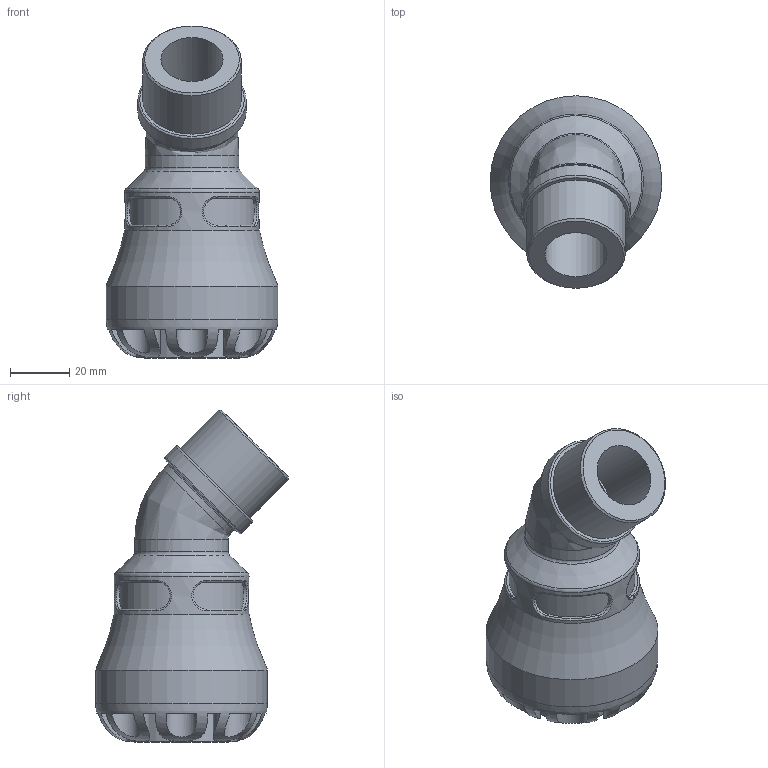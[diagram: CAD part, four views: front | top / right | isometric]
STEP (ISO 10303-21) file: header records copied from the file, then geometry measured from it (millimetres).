
FILE_DESCRIPTION(/* description */ ('PLASSON 45° Elbow with Threaded Male Offtake 32 X 1'''''),/* implementation_level */ '2;1');
FILE_NAME(/* name */ 'C:\Dropbox\KIMPROJECTS-Inventor\99-16-3568-Processing\S1\27.01.19\1045\104500032010.ipt.stp',/* time_stamp */ '2019-01-27T09:13:25+02:00',/* author */ ('KIM'),/* organization */ (''),/* preprocessor_version */ 'ST-DEVELOPER v15.6',/* originating_system */ 'Autodesk Inventor 2015',/* authorisation */ '');
FILE_SCHEMA (('AUTOMOTIVE_DESIGN { 1 0 10303 214 3 1 1 }'));
Length unit declared in the file: millimetre
Products named in the file (1): 104500032010
Bounding box: 58 x 65.05 x 112.05 mm (x, y, z)
Volume: 96922.5 mm3; surface area: 30278.3 mm2
Topology: 1 solids, 1 shells, 114 faces, 243 edges, 142 vertices
Faces by surface type: cylinder 53, plane 28, torus 18, bspline 12, cone 3
Full cylindrical faces by diameter (mm): 20.947 x2, 31.587 x2, 32 x1, 33.249 x1, 36.574 x1, 45.532 x1, 58 x1
Entity records: 4559 total; most frequent: CARTESIAN_POINT 2121, DIRECTION 482, ORIENTED_EDGE 454, AXIS2_PLACEMENT_3D 228, EDGE_CURVE 218, EDGE_LOOP 151, VERTEX_POINT 140, CIRCLE 125
